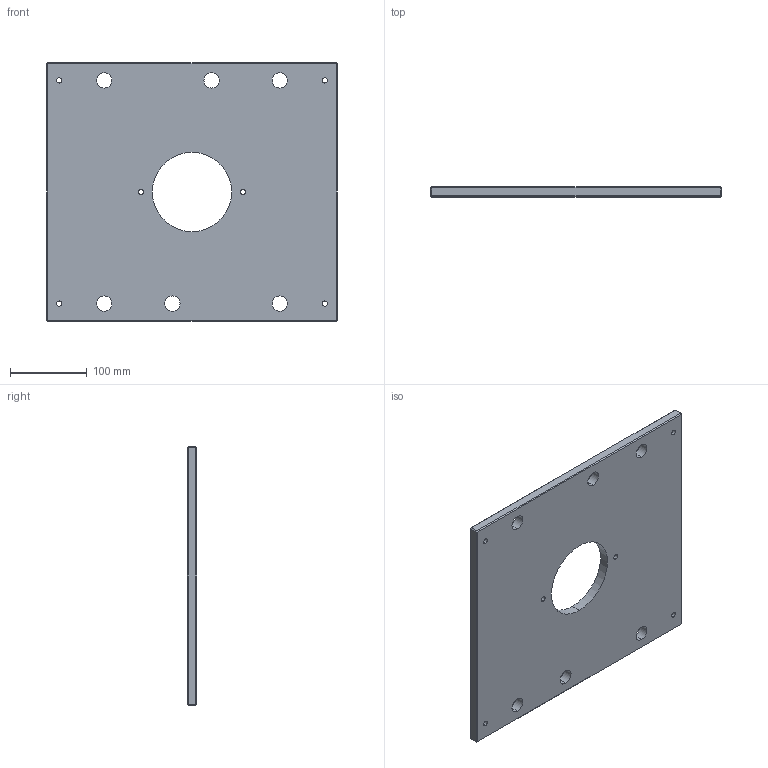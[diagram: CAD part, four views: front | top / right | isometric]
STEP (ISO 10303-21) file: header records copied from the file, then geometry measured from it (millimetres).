
FILE_DESCRIPTION (( 'STEP AP214' ), '1' );
FILE_NAME ('ME-0619-CH-1315-B.STEP', '2020-02-12T12:26:40', ( '' ), ( '' ), 'SwSTEP 2.0', 'SolidWorks 2018', '' );
FILE_SCHEMA (( 'AUTOMOTIVE_DESIGN' ));
Length unit declared in the file: inch
Products named in the file (1): ME-0619-CH-1315-B
Bounding box: 377.82 x 12.7 x 336.55 mm (x, y, z)
Volume: 1478767 mm3; surface area: 259766.6 mm2
Topology: 1 solids, 1 shells, 64 faces, 150 edges, 88 vertices
Faces by surface type: cylinder 26, plane 26, cone 12
Entity records: 1902 total; most frequent: DIRECTION 344, CARTESIAN_POINT 303, ORIENTED_EDGE 300, EDGE_CURVE 150, AXIS2_PLACEMENT_3D 129, EDGE_LOOP 90, VERTEX_POINT 88, LINE 86
